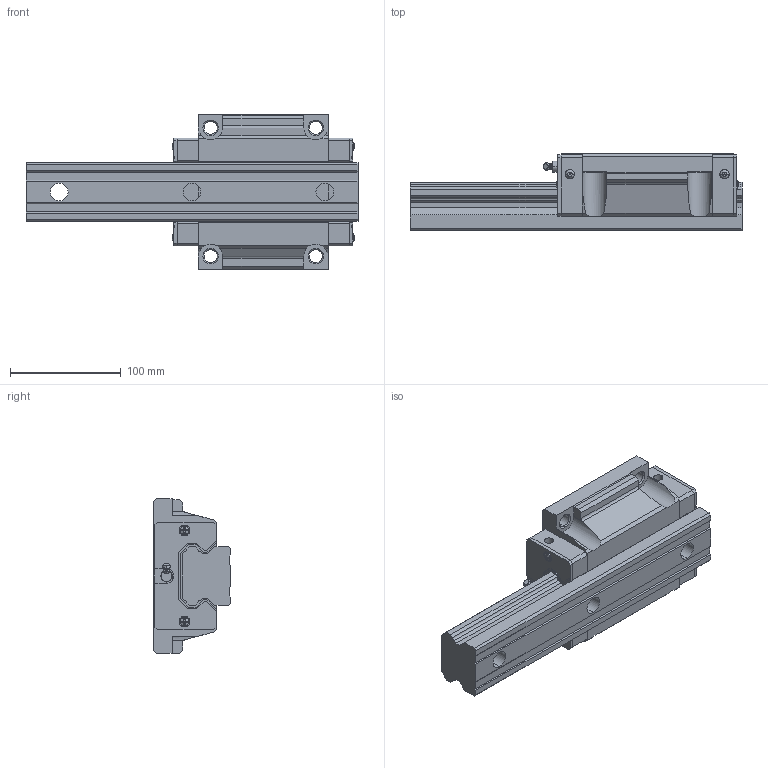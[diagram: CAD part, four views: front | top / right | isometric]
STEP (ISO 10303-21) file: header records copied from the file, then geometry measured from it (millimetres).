
FILE_DESCRIPTION (( 'STEP AP214' ), '1' );
FILE_NAME ('GHW55CC1R300Z0C-30_30(1_1).STEP', '2023-05-22T05:13:25', ( '' ), ( '' ), 'SwSTEP 2.0', 'SolidWorks 2022', '' );
FILE_SCHEMA (( 'AUTOMOTIVE_DESIGN' ));
Length unit declared in the file: millimetre
Products named in the file (8): GHR55R300C+RC-30_30(1)_RAIL; GH55-_G; GH55_SCREW; GHW55CC_P; GHW55CC_SLIDER; GHW55CC1R300Z0C-30_30(1_1); GHW55CC_C; GH55_BOLT
Assembly tree (12 placements, depth 2):
  GHW55CC1R300Z0C-30_30(1_1)
    GH55-_G
    GH55_SCREW  x4
    GHW55CC_P  x2
    GHW55CC_C  x2
    GH55_BOLT
    GHW55CC_SLIDER
    GHR55R300C+RC-30_30(1)_RAIL
Bounding box: 300 x 70 x 140 mm (x, y, z)
Volume: 1379056.7 mm3; surface area: 187273.9 mm2
Topology: 11 solids, 13 shells, 557 faces, 1463 edges, 957 vertices
Faces by surface type: plane 371, cylinder 120, cone 42, bspline 18, torus 6
Entity records: 16100 total; most frequent: CARTESIAN_POINT 2410, ORIENTED_EDGE 1950, DIRECTION 1918, EDGE_CURVE 977, VECTOR 664, LINE 664, VERTEX_POINT 635, AXIS2_PLACEMENT_3D 627
